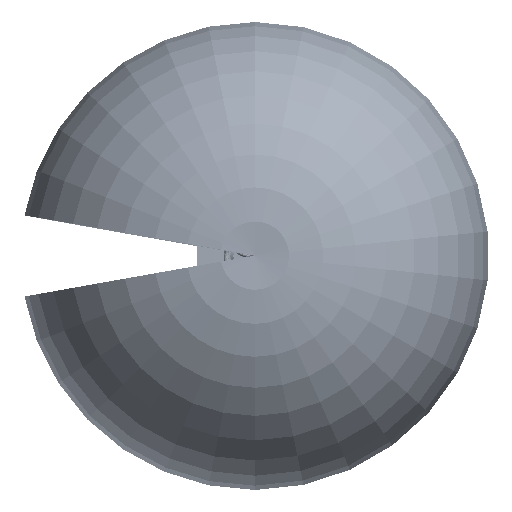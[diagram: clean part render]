
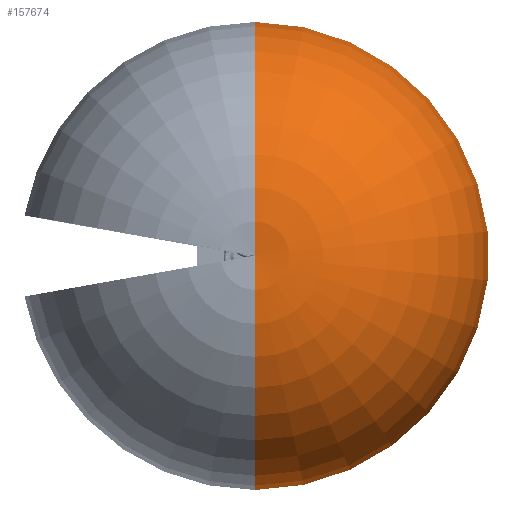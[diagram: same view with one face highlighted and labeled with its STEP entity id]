
A CAD part, top view. The second image highlights one B-rep face of the part: STEP entity #157674.
In plain terms, the highlighted toroidal (fillet/blend) face has major radius 320.026 mm and minor radius 2279.87 mm.
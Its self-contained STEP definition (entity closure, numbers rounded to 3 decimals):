
#15792 = CARTESIAN_POINT ( 'NONE',  ( 0., -320.025, 670. ) ) ;
#29963 = CIRCLE ( 'NONE', #352309, 1627.707 ) ;
#36768 = CARTESIAN_POINT ( 'NONE',  ( 0., -1627.707, -1197.563 ) ) ;
#46447 = EDGE_LOOP ( 'NONE', ( #65982, #184675, #172065 ) ) ;
#50848 = DIRECTION ( 'NONE',  ( -1., 0., 0. ) ) ;
#53624 = AXIS2_PLACEMENT_3D ( 'NONE', #317257, #385281, #193601 ) ;
#61076 = DIRECTION ( 'NONE',  ( 0., -1., 0. ) ) ;
#65982 = ORIENTED_EDGE ( 'NONE', *, *, #372480, .T. ) ;
#70256 = VERTEX_POINT ( 'NONE', #36768 ) ;
#73905 = CARTESIAN_POINT ( 'NONE',  ( 0., 1627.707, -1197.563 ) ) ;
#75210 = AXIS2_PLACEMENT_3D ( 'NONE', #15792, #50848, #384393 ) ;
#80589 = DIRECTION ( 'NONE',  ( 0., 0., -1. ) ) ;
#143677 = CIRCLE ( 'NONE', #305029, 2279.873 ) ;
#157674 = ADVANCED_FACE ( 'NONE', ( #280083 ), #418019, .T. ) ;
#171480 = CARTESIAN_POINT ( 'NONE',  ( 0., 0., 2927.301 ) ) ;
#172065 = ORIENTED_EDGE ( 'NONE', *, *, #357479, .F. ) ;
#183613 = CARTESIAN_POINT ( 'NONE',  ( 0., 320.025, 670. ) ) ;
#184675 = ORIENTED_EDGE ( 'NONE', *, *, #240388, .T. ) ;
#193601 = DIRECTION ( 'NONE',  ( 0., -1., 0. ) ) ;
#240388 = EDGE_CURVE ( 'NONE', #319345, #353692, #143677, .T. ) ;
#280083 = FACE_OUTER_BOUND ( 'NONE', #46447, .T. ) ;
#305029 = AXIS2_PLACEMENT_3D ( 'NONE', #183613, #414236, #80589 ) ;
#317257 = CARTESIAN_POINT ( 'NONE',  ( 0., 0., 670. ) ) ;
#319345 = VERTEX_POINT ( 'NONE', #73905 ) ;
#352309 = AXIS2_PLACEMENT_3D ( 'NONE', #396813, #403286, #61076 ) ;
#353692 = VERTEX_POINT ( 'NONE', #171480 ) ;
#357479 = EDGE_CURVE ( 'NONE', #70256, #353692, #390654, .T. ) ;
#372480 = EDGE_CURVE ( 'NONE', #70256, #319345, #29963, .T. ) ;
#384393 = DIRECTION ( 'NONE',  ( 0., -1., 0. ) ) ;
#385281 = DIRECTION ( 'NONE',  ( 0., 0., 1. ) ) ;
#390654 = CIRCLE ( 'NONE', #75210, 2279.873 ) ;
#396813 = CARTESIAN_POINT ( 'NONE',  ( 0., 0., -1197.563 ) ) ;
#403286 = DIRECTION ( 'NONE',  ( 0., 0., 1. ) ) ;
#414236 = DIRECTION ( 'NONE',  ( 1., 0., 0. ) ) ;
#418019 = TOROIDAL_SURFACE ( 'NONE', #53624, 320.025, 2279.873 ) ;
